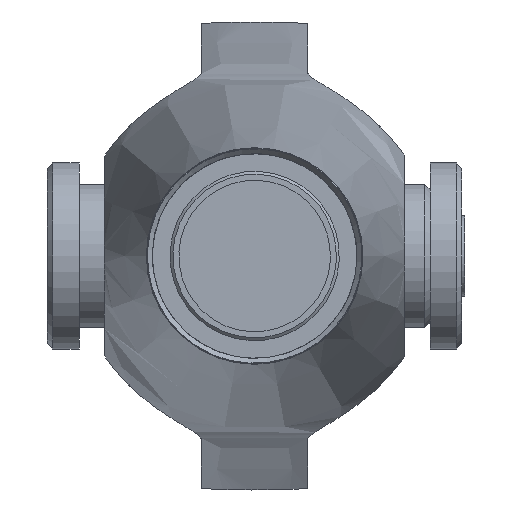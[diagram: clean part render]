
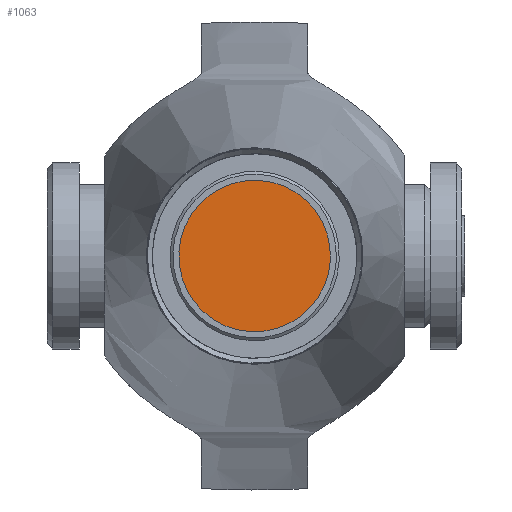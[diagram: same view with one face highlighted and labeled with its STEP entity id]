
A CAD part, left-side view. The second image highlights one B-rep face of the part: STEP entity #1063.
In plain terms, the highlighted planar face has unit normal (-1, 0, 0).
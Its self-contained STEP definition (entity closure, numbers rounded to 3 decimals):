
#84=PLANE('',#1161);
#116=FACE_OUTER_BOUND('',#180,.T.);
#180=EDGE_LOOP('',(#701,#702));
#359=CIRCLE('',#1159,14.25);
#360=CIRCLE('',#1160,14.25);
#427=VERTEX_POINT('',#1618);
#428=VERTEX_POINT('',#1620);
#537=EDGE_CURVE('',#428,#427,#359,.T.);
#538=EDGE_CURVE('',#427,#428,#360,.T.);
#701=ORIENTED_EDGE('',*,*,#537,.T.);
#702=ORIENTED_EDGE('',*,*,#538,.T.);
#1063=ADVANCED_FACE('',(#116),#84,.T.);
#1159=AXIS2_PLACEMENT_3D('',#1621,#1310,#1311);
#1160=AXIS2_PLACEMENT_3D('',#1622,#1312,#1313);
#1161=AXIS2_PLACEMENT_3D('',#1623,#1314,#1315);
#1310=DIRECTION('center_axis',(-1.,0.,0.));
#1311=DIRECTION('ref_axis',(0.,-0.453,-0.892));
#1312=DIRECTION('center_axis',(-1.,0.,0.));
#1313=DIRECTION('ref_axis',(0.,-0.453,-0.892));
#1314=DIRECTION('center_axis',(-1.,0.,0.));
#1315=DIRECTION('ref_axis',(0.,-0.453,-0.892));
#1618=CARTESIAN_POINT('',(-305.5,-12.706,6.452));
#1620=CARTESIAN_POINT('',(-305.5,12.706,-6.452));
#1621=CARTESIAN_POINT('Origin',(-305.5,0.,
0.));
#1622=CARTESIAN_POINT('Origin',(-305.5,0.,
0.));
#1623=CARTESIAN_POINT('Origin',(-305.5,0.,
0.));
